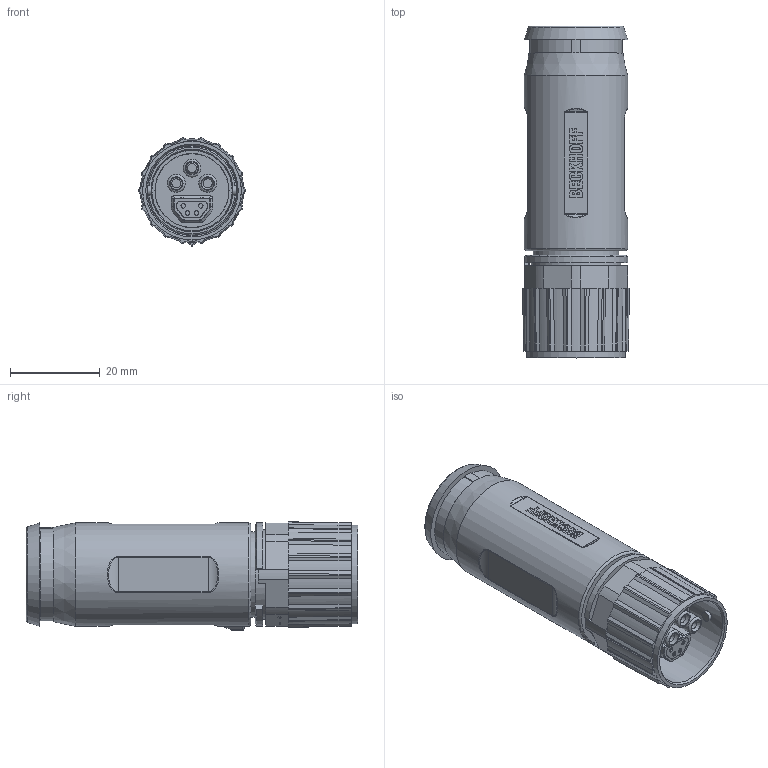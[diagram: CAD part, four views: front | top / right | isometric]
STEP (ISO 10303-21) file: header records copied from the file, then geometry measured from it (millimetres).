
FILE_DESCRIPTION(/* description */ (''),/* implementation_level */ '2;1');
FILE_NAME(/* name */ 'X:\0-inventor\0-3d-Teile\PC-Compo\solids\EtherCAT-P_Stecker_Buchsen\0-Ausgabe\B17 ENP und ECP_T0423\ECP_Umspritzt\3pol_2_5mm²\3pol_Pbu_2_5mm²_Step.stp',/* time_stamp */ '2019-04-30T09:54:12+02:00',/* author */ ('ChristianKreuzer'),/* organization */ ('Design-AG'),/* preprocessor_version */ 'ST-DEVELOPER v17.2',/* originating_system */ 'Autodesk Inventor 2019',/* authorisation */ '');
FILE_SCHEMA (('AUTOMOTIVE_DESIGN { 1 0 10303 214 3 1 1 }'));
Length unit declared in the file: millimetre
Products named in the file (1): 3pol_Pbu_2_5mm²_Step
Bounding box: 23.8 x 73.85 x 24.12 mm (x, y, z)
Volume: 25857 mm3; surface area: 11643 mm2
Topology: 8 solids, 8 shells, 874 faces, 2368 edges, 1562 vertices
Faces by surface type: plane 674, cylinder 87, cone 66, bspline 32, torus 14, sphere 1
Full cylindrical faces by diameter (mm): 0.5 x1, 1 x4, 2 x3, 2.2 x2, 2.8 x3, 4 x3, 16.4 x1, 16.5 x1, 17.87 x1, 18 x2, 19 x1, 19.17 x2, 19.88 x1, 20 x3, 20.8 x1, 21.2 x1, 23 x1
Entity records: 30566 total; most frequent: CARTESIAN_POINT 7600, ORIENTED_EDGE 4732, DIRECTION 4287, EDGE_CURVE 2366, LINE 1843, VECTOR 1843, VERTEX_POINT 1562, AXIS2_PLACEMENT_3D 1222
